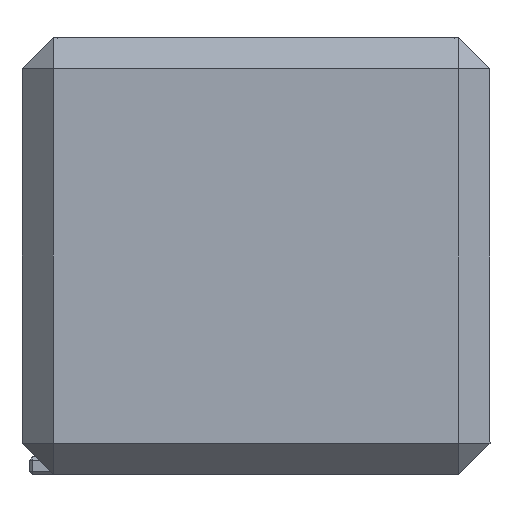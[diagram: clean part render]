
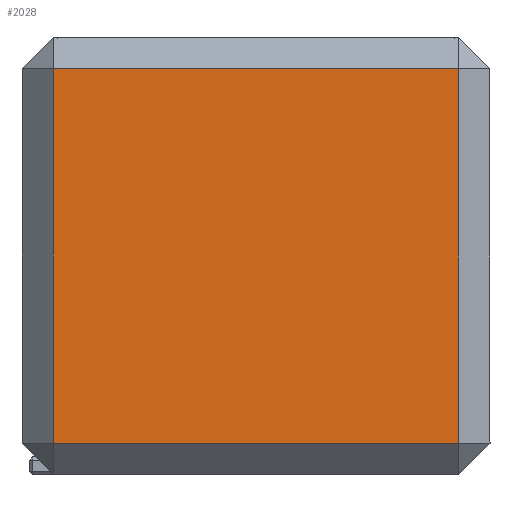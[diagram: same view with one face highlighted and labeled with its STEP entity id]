
A CAD part, left-side view. The second image highlights one B-rep face of the part: STEP entity #2028.
In plain terms, the highlighted planar face has unit normal (-1, 0, 0).
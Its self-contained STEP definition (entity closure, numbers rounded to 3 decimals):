
#168=FACE_OUTER_BOUND('',#298,.T.);
#298=EDGE_LOOP('',(#1610,#1611,#1612,#1613));
#487=LINE('',#3167,#731);
#493=LINE('',#3178,#737);
#503=LINE('',#3197,#747);
#506=LINE('',#3202,#750);
#731=VECTOR('',#2563,10.);
#737=VECTOR('',#2575,10.);
#747=VECTOR('',#2595,10.);
#750=VECTOR('',#2602,10.);
#930=VERTEX_POINT('',#3139);
#935=VERTEX_POINT('',#3161);
#938=VERTEX_POINT('',#3173);
#941=VERTEX_POINT('',#3191);
#1155=EDGE_CURVE('',#935,#930,#487,.T.);
#1161=EDGE_CURVE('',#930,#938,#493,.T.);
#1171=EDGE_CURVE('',#941,#935,#503,.T.);
#1174=EDGE_CURVE('',#938,#941,#506,.T.);
#1610=ORIENTED_EDGE('',*,*,#1155,.F.);
#1611=ORIENTED_EDGE('',*,*,#1171,.F.);
#1612=ORIENTED_EDGE('',*,*,#1174,.F.);
#1613=ORIENTED_EDGE('',*,*,#1161,.F.);
#1916=PLANE('',#2205);
#2028=ADVANCED_FACE('',(#168),#1916,.T.);
#2205=AXIS2_PLACEMENT_3D('',#3208,#2611,#2612);
#2563=DIRECTION('',(0.,1.,0.));
#2575=DIRECTION('',(0.,0.,1.));
#2595=DIRECTION('',(0.,0.,-1.));
#2602=DIRECTION('',(0.,-1.,0.));
#2611=DIRECTION('center_axis',(-1.,0.,0.));
#2612=DIRECTION('ref_axis',(0.,-1.,0.));
#3139=CARTESIAN_POINT('',(-37.5,32.5,5.));
#3161=CARTESIAN_POINT('',(-37.5,-32.5,5.));
#3167=CARTESIAN_POINT('',(-37.5,18.75,5.));
#3173=CARTESIAN_POINT('',(-37.5,32.5,65.));
#3178=CARTESIAN_POINT('',(-37.5,32.5,0.));
#3191=CARTESIAN_POINT('',(-37.5,-32.5,65.));
#3197=CARTESIAN_POINT('',(-37.5,-32.5,0.));
#3202=CARTESIAN_POINT('',(-37.5,18.75,65.));
#3208=CARTESIAN_POINT('Origin',(-37.5,37.5,0.));
